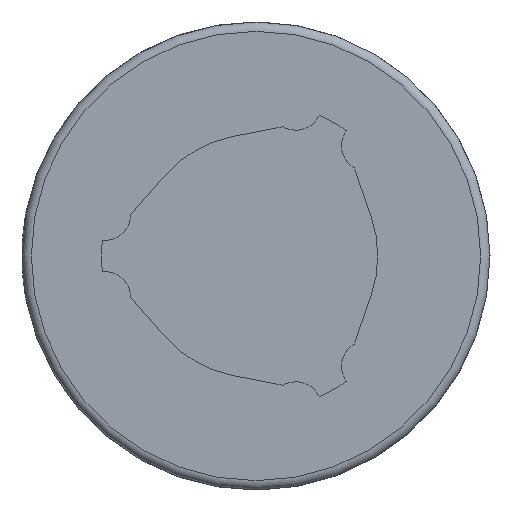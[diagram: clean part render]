
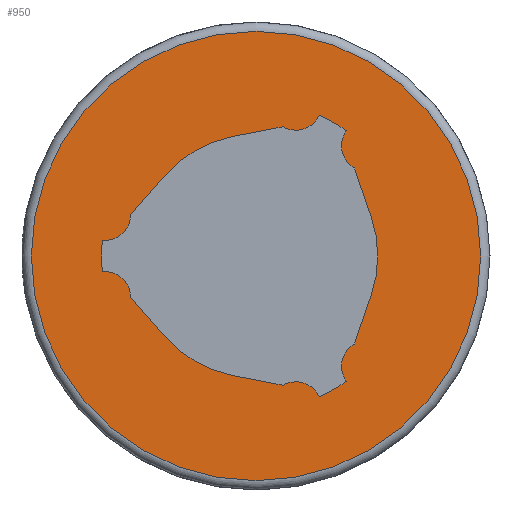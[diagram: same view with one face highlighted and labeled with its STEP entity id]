
A CAD part, left-side view. The second image highlights one B-rep face of the part: STEP entity #950.
In plain terms, the highlighted planar face has unit normal (-1, 0, 0).
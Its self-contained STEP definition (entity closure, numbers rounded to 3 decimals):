
#48=PLANE('',#1057);
#92=LINE('',#1550,#162);
#93=LINE('',#1559,#163);
#94=LINE('',#1563,#164);
#95=LINE('',#1571,#165);
#96=LINE('',#1575,#166);
#97=LINE('',#1583,#167);
#162=VECTOR('',#1255,1000.);
#163=VECTOR('',#1262,1000.);
#164=VECTOR('',#1265,1000.);
#165=VECTOR('',#1272,1000.);
#166=VECTOR('',#1275,1000.);
#167=VECTOR('',#1282,1000.);
#310=ORIENTED_EDGE('',*,*,#528,.F.);
#311=ORIENTED_EDGE('',*,*,#529,.T.);
#312=ORIENTED_EDGE('',*,*,#530,.F.);
#313=ORIENTED_EDGE('',*,*,#531,.T.);
#314=ORIENTED_EDGE('',*,*,#532,.F.);
#315=ORIENTED_EDGE('',*,*,#533,.T.);
#316=ORIENTED_EDGE('',*,*,#534,.T.);
#317=ORIENTED_EDGE('',*,*,#535,.T.);
#318=ORIENTED_EDGE('',*,*,#536,.F.);
#319=ORIENTED_EDGE('',*,*,#537,.T.);
#320=ORIENTED_EDGE('',*,*,#538,.F.);
#321=ORIENTED_EDGE('',*,*,#539,.T.);
#322=ORIENTED_EDGE('',*,*,#540,.T.);
#323=ORIENTED_EDGE('',*,*,#541,.T.);
#324=ORIENTED_EDGE('',*,*,#542,.F.);
#325=ORIENTED_EDGE('',*,*,#543,.T.);
#326=ORIENTED_EDGE('',*,*,#544,.F.);
#327=ORIENTED_EDGE('',*,*,#545,.T.);
#328=ORIENTED_EDGE('',*,*,#546,.T.);
#528=EDGE_CURVE('',#646,#646,#728,.T.);
#529=EDGE_CURVE('',#647,#648,#92,.T.);
#530=EDGE_CURVE('',#649,#648,#729,.T.);
#531=EDGE_CURVE('',#649,#650,#730,.T.);
#532=EDGE_CURVE('',#651,#650,#731,.T.);
#533=EDGE_CURVE('',#651,#652,#93,.T.);
#534=EDGE_CURVE('',#652,#653,#732,.T.);
#535=EDGE_CURVE('',#653,#654,#94,.T.);
#536=EDGE_CURVE('',#655,#654,#733,.T.);
#537=EDGE_CURVE('',#655,#656,#734,.T.);
#538=EDGE_CURVE('',#657,#656,#735,.T.);
#539=EDGE_CURVE('',#657,#658,#95,.T.);
#540=EDGE_CURVE('',#658,#659,#736,.T.);
#541=EDGE_CURVE('',#659,#660,#96,.T.);
#542=EDGE_CURVE('',#661,#660,#737,.T.);
#543=EDGE_CURVE('',#661,#662,#738,.T.);
#544=EDGE_CURVE('',#663,#662,#739,.T.);
#545=EDGE_CURVE('',#663,#664,#97,.T.);
#546=EDGE_CURVE('',#664,#647,#740,.T.);
#646=VERTEX_POINT('',#1549);
#647=VERTEX_POINT('',#1551);
#648=VERTEX_POINT('',#1552);
#649=VERTEX_POINT('',#1554);
#650=VERTEX_POINT('',#1556);
#651=VERTEX_POINT('',#1558);
#652=VERTEX_POINT('',#1560);
#653=VERTEX_POINT('',#1562);
#654=VERTEX_POINT('',#1564);
#655=VERTEX_POINT('',#1566);
#656=VERTEX_POINT('',#1568);
#657=VERTEX_POINT('',#1570);
#658=VERTEX_POINT('',#1572);
#659=VERTEX_POINT('',#1574);
#660=VERTEX_POINT('',#1576);
#661=VERTEX_POINT('',#1578);
#662=VERTEX_POINT('',#1580);
#663=VERTEX_POINT('',#1582);
#664=VERTEX_POINT('',#1584);
#728=CIRCLE('',#1058,36.);
#729=CIRCLE('',#1059,4.13);
#730=CIRCLE('',#1060,24.75);
#731=CIRCLE('',#1061,4.13);
#732=CIRCLE('',#1062,19.5);
#733=CIRCLE('',#1063,4.13);
#734=CIRCLE('',#1064,24.75);
#735=CIRCLE('',#1065,4.13);
#736=CIRCLE('',#1066,19.5);
#737=CIRCLE('',#1067,4.13);
#738=CIRCLE('',#1068,24.75);
#739=CIRCLE('',#1069,4.13);
#740=CIRCLE('',#1070,19.5);
#783=EDGE_LOOP('',(#310));
#784=EDGE_LOOP('',(#311,#312,#313,#314,#315,#316,#317,#318,#319,#320,#321,
#322,#323,#324,#325,#326,#327,#328));
#851=FACE_BOUND('',#783,.T.);
#852=FACE_BOUND('',#784,.T.);
#950=ADVANCED_FACE('',(#851,#852),#48,.F.);
#1057=AXIS2_PLACEMENT_3D('',#1547,#1251,#1252);
#1058=AXIS2_PLACEMENT_3D('',#1548,#1253,#1254);
#1059=AXIS2_PLACEMENT_3D('',#1553,#1256,#1257);
#1060=AXIS2_PLACEMENT_3D('',#1555,#1258,#1259);
#1061=AXIS2_PLACEMENT_3D('',#1557,#1260,#1261);
#1062=AXIS2_PLACEMENT_3D('',#1561,#1263,#1264);
#1063=AXIS2_PLACEMENT_3D('',#1565,#1266,#1267);
#1064=AXIS2_PLACEMENT_3D('',#1567,#1268,#1269);
#1065=AXIS2_PLACEMENT_3D('',#1569,#1270,#1271);
#1066=AXIS2_PLACEMENT_3D('',#1573,#1273,#1274);
#1067=AXIS2_PLACEMENT_3D('',#1577,#1276,#1277);
#1068=AXIS2_PLACEMENT_3D('',#1579,#1278,#1279);
#1069=AXIS2_PLACEMENT_3D('',#1581,#1280,#1281);
#1070=AXIS2_PLACEMENT_3D('',#1585,#1283,#1284);
#1251=DIRECTION('',(1.,0.,0.));
#1252=DIRECTION('',(0.,1.,0.));
#1253=DIRECTION('',(1.,0.,0.));
#1254=DIRECTION('',(0.,1.,0.));
#1255=DIRECTION('',(0.,-0.982,0.191));
#1256=DIRECTION('',(1.,0.,0.));
#1257=DIRECTION('',(0.,0.,-1.));
#1258=DIRECTION('',(1.,0.,0.));
#1259=DIRECTION('',(0.,0.,-1.));
#1260=DIRECTION('',(1.,0.,0.));
#1261=DIRECTION('',(0.,0.,-1.));
#1262=DIRECTION('',(0.,-0.326,-0.946));
#1263=DIRECTION('',(1.,0.,0.));
#1264=DIRECTION('',(0.,0.,-1.));
#1265=DIRECTION('',(0.,0.326,-0.946));
#1266=DIRECTION('',(1.,0.,0.));
#1267=DIRECTION('',(0.,0.,-1.));
#1268=DIRECTION('',(1.,0.,0.));
#1269=DIRECTION('',(0.,0.,-1.));
#1270=DIRECTION('',(1.,0.,0.));
#1271=DIRECTION('',(0.,0.,-1.));
#1272=DIRECTION('',(0.,0.982,0.191));
#1273=DIRECTION('',(1.,0.,0.));
#1274=DIRECTION('',(0.,0.,-1.));
#1275=DIRECTION('',(0.,0.656,0.755));
#1276=DIRECTION('',(1.,0.,0.));
#1277=DIRECTION('',(0.,0.,-1.));
#1278=DIRECTION('',(1.,0.,0.));
#1279=DIRECTION('',(0.,0.,-1.));
#1280=DIRECTION('',(1.,0.,0.));
#1281=DIRECTION('',(0.,0.,-1.));
#1282=DIRECTION('',(0.,-0.656,0.755));
#1283=DIRECTION('',(1.,0.,0.));
#1284=DIRECTION('',(0.,0.,-1.));
#1547=CARTESIAN_POINT('',(0.,0.,0.));
#1548=CARTESIAN_POINT('',(0.,0.,0.));
#1549=CARTESIAN_POINT('',(0.,36.,0.));
#1550=CARTESIAN_POINT('',(0.,3.721,19.142));
#1551=CARTESIAN_POINT('',(0.,3.721,19.142));
#1552=CARTESIAN_POINT('',(0.,-4.33,20.707));
#1553=CARTESIAN_POINT('',(0.,-6.39,24.287));
#1554=CARTESIAN_POINT('',(0.,-10.148,22.574));
#1555=CARTESIAN_POINT('',(0.,0.,0.));
#1556=CARTESIAN_POINT('',(0.,-14.476,20.075));
#1557=CARTESIAN_POINT('',(0.,-17.838,17.677));
#1558=CARTESIAN_POINT('',(0.,-15.767,14.104));
#1559=CARTESIAN_POINT('',(0.,-15.767,14.104));
#1560=CARTESIAN_POINT('',(0.,-18.438,6.349));
#1561=CARTESIAN_POINT('',(0.,0.,0.));
#1562=CARTESIAN_POINT('',(0.,-18.438,-6.349));
#1563=CARTESIAN_POINT('',(0.,-18.438,-6.349));
#1564=CARTESIAN_POINT('',(0.,-15.767,-14.104));
#1565=CARTESIAN_POINT('',(0.,-17.838,-17.677));
#1566=CARTESIAN_POINT('',(0.,-14.476,-20.075));
#1567=CARTESIAN_POINT('',(0.,0.,0.));
#1568=CARTESIAN_POINT('',(0.,-10.148,-22.574));
#1569=CARTESIAN_POINT('',(0.,-6.39,-24.287));
#1570=CARTESIAN_POINT('',(0.,-4.33,-20.707));
#1571=CARTESIAN_POINT('',(0.,-4.33,-20.707));
#1572=CARTESIAN_POINT('',(0.,3.721,-19.142));
#1573=CARTESIAN_POINT('',(0.,0.,0.));
#1574=CARTESIAN_POINT('',(0.,14.717,-12.793));
#1575=CARTESIAN_POINT('',(0.,14.717,-12.793));
#1576=CARTESIAN_POINT('',(0.,20.098,-6.603));
#1577=CARTESIAN_POINT('',(0.,24.228,-6.61));
#1578=CARTESIAN_POINT('',(0.,24.624,-2.499));
#1579=CARTESIAN_POINT('',(0.,0.,0.));
#1580=CARTESIAN_POINT('',(0.,24.624,2.499));
#1581=CARTESIAN_POINT('',(0.,24.228,6.61));
#1582=CARTESIAN_POINT('',(0.,20.098,6.603));
#1583=CARTESIAN_POINT('',(0.,20.098,6.603));
#1584=CARTESIAN_POINT('',(0.,14.717,12.793));
#1585=CARTESIAN_POINT('',(0.,0.,0.));
